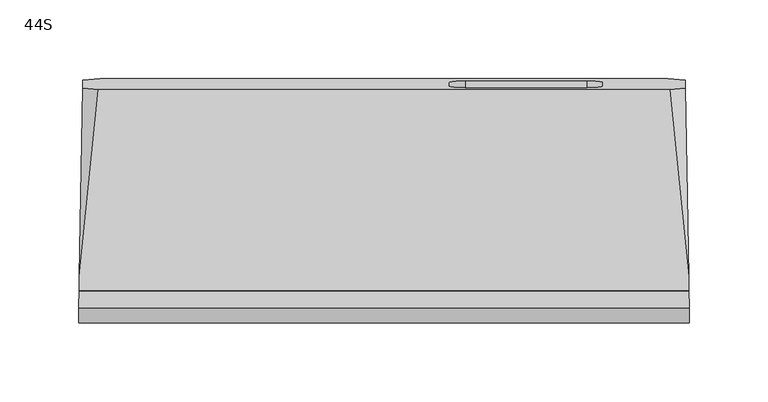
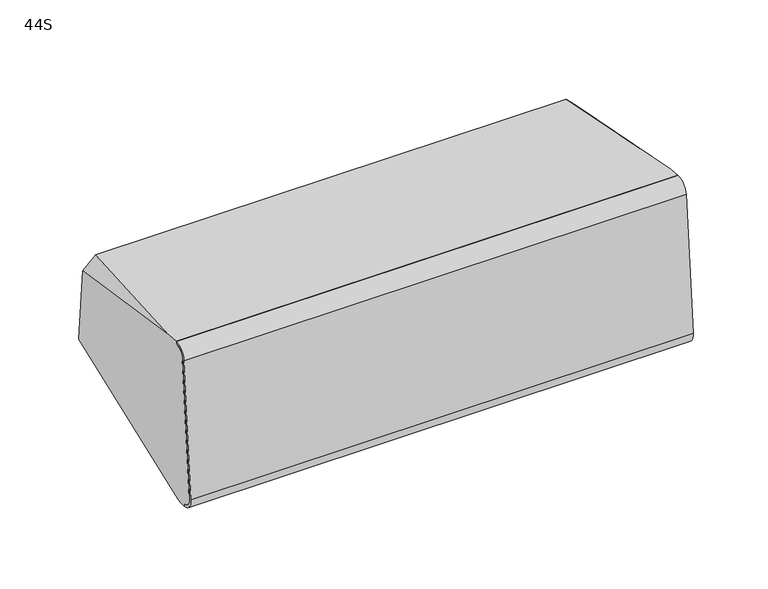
"""IFC4 building model written with IfcOpenShell, lengths in millimetres: proxy geometry, d&b xS-Series 44S Point Source : 44S."""

from ifc_helpers import new_model, si_unit, frame, origin, place, context, project, spatial, polyline, circle_curve, ellipse_curve, source, transform, mapped, element, save
from ifc_brep_helpers import plane_surface, cylinder_surface, revolved_surface, advanced_brep


def proxy_44s_8ae005f7(model_context):
    return source(origin(), model_context, "Body", "AdvancedBrep", [
        advanced_brep(
        [(193.2924342, -60.1708825, 69.5087397), (193.2924342, -60.3414006, 67.5597089), (193.4294708, -68.97039, 60.3191271), (193.4294708, -78.3900458, -47.3480309), (193.2918337, -71.1177341, -56.0148344), (193.2918337, -71.2920456, -58.0072238), (193.1898069, -65.3844214, -58.524074), (193.132384, -61.9536331, -57.6051002), (190.8800877, 73.551062, -10.8276942), (191.0574064, 68.3781553, 48.2989), (193.132384, -50.9035477, 68.697953), (-193.2924342, -60.3414006, 67.5597089), (-193.2924342, -60.1708825, 69.5087397), (-193.132384, -50.9035477, 68.697953), (-191.0574064, 68.3781553, 48.2989), (-190.8800877, 73.551062, -10.8276942), (-193.132384, -61.9536331, -57.6051002), (-193.1898069, -65.3844214, -58.524074), (-193.2918337, -71.2920456, -58.0072238), (-193.2918337, -71.1177341, -56.0148344), (-193.4294708, -78.3900458, -47.3480309), (-193.4294708, -68.97039, 60.3191271), (181.3061997, 67.4997599, 58.3390058), (-181.3061997, 67.4997599, 58.3390058), (-179.9289467, 74.4470346, -21.0687075), (179.9289467, 74.4470346, -21.0687075), (138.5, 72.1064219, 5.6846181), (138.5, 69.8403726, 31.5856802), (128.5, 68.9688151, 41.5476272), (51.5, 68.9688151, 41.5476272), (41.5, 69.8403726, 31.5856802), (41.5, 72.1064219, 5.6846181), (51.5, 72.9779793, -4.2773289), (128.5, 72.9779793, -4.2773289), (138.5, 67.1254484, 5.2488394), (128.5, 67.9970058, -4.7131076), (51.5, 67.9970058, -4.7131076), (41.5, 67.1254484, 5.2488394), (41.5, 64.8593991, 31.1499015), (51.5, 63.9878417, 41.1118485), (128.5, 63.9878417, 41.1118485), (138.5, 64.8593991, 31.1499015)],
        [
            (0, 1),
            (1, 2, ellipse_curve(frame((193.2924342, -61.0356044, 59.6249233), z_axis=(0.9998520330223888, 0.01713663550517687, -0.001499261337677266), x_axis=(0.017202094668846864, -0.9960472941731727, 0.08714284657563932)), 7.9662739, 7.9650952)),
            (2, 3),
            (3, 4, ellipse_curve(frame((193.2918337, -70.4204882, -48.0452768), z_axis=(0.9998520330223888, 0.01713663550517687, -0.001499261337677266), x_axis=(0.017202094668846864, -0.9960472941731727, 0.08714284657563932)), 8.0011839, 8.0)),
            (4, 5),
            (5, 6),
            (6, 7),
            (7, 8),
            (8, 9),
            (9, 10),
            (10, 0),
            (11, 12),
            (12, 13),
            (13, 14),
            (14, 15),
            (15, 16),
            (16, 17),
            (17, 18),
            (18, 19),
            (19, 20, ellipse_curve(frame((-193.2918337, -70.4204882, -48.0452768), z_axis=(-0.999852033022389, 0.01713663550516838, -0.0014992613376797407), x_axis=(0.017202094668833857, 0.9960472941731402, -0.08714284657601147)), 8.0011839, 8.0)),
            (20, 21),
            (21, 11, ellipse_curve(frame((-193.2924342, -61.0356044, 59.6249233), z_axis=(-0.999852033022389, 0.01713663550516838, -0.0014992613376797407), x_axis=(0.017202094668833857, 0.9960472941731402, -0.08714284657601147)), 7.9662739, 7.9650952)),
            (0, 12),
            (11, 1),
            (21, 2),
            (20, 3),
            (19, 4),
            (18, 5),
            (17, 6),
            (10, 22),
            (22, 23),
            (23, 13),
            (16, 24),
            (24, 25),
            (25, 7),
            (9, 22),
            (23, 14),
            (15, 24),
            (25, 8),
            (26, 27),
            (27, 28, circle_curve(frame((128.5, 69.8403726, 31.5856802), z_axis=(0.0, -0.9961946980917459, -0.08715574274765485), x_axis=(0.0, 0.08715574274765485, -0.9961946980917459)), 10.0)),
            (28, 29),
            (29, 30, circle_curve(frame((51.5, 69.8403726, 31.5856802), z_axis=(0.0, -0.9961946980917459, -0.08715574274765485), x_axis=(0.0, 0.08715574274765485, -0.9961946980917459)), 10.0)),
            (30, 31),
            (31, 32, circle_curve(frame((51.5, 72.1064219, 5.6846181), z_axis=(0.0, -0.9961946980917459, -0.08715574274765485), x_axis=(0.0, 0.08715574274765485, -0.9961946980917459)), 10.0)),
            (32, 33),
            (33, 26, circle_curve(frame((128.5, 72.1064219, 5.6846181), z_axis=(0.0, -0.9961946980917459, -0.08715574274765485), x_axis=(0.0, 0.08715574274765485, -0.9961946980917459)), 10.0)),
            (34, 35, circle_curve(frame((128.5, 67.1254484, 5.2488394), z_axis=(0.0, 0.9961946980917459, 0.08715574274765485), x_axis=(0.0, 0.08715574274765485, -0.9961946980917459)), 10.0)),
            (35, 36),
            (36, 37, circle_curve(frame((51.5, 67.1254484, 5.2488394), z_axis=(0.0, 0.9961946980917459, 0.08715574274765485), x_axis=(0.0, 0.08715574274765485, -0.9961946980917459)), 10.0)),
            (37, 38),
            (38, 39, circle_curve(frame((51.5, 64.8593991, 31.1499015), z_axis=(0.0, 0.9961946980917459, 0.08715574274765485), x_axis=(0.0, 0.08715574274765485, -0.9961946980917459)), 10.0)),
            (39, 40),
            (40, 41, circle_curve(frame((128.5, 64.8593991, 31.1499015), z_axis=(0.0, 0.9961946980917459, 0.08715574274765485), x_axis=(0.0, 0.08715574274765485, -0.9961946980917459)), 10.0)),
            (41, 34),
            (41, 27),
            (26, 34),
            (40, 28),
            (39, 29),
            (38, 30),
            (37, 31),
            (36, 32),
            (35, 33),
        ],
        [
            plane_surface(frame((193.8309972, -105.6486643, -91.1389233), z_axis=(0.9998520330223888, 0.01713663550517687, -0.001499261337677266), x_axis=(0.0, 0.08715574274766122, 0.9961946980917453))),
            plane_surface(frame((-190.7119283, 74.9537717, -106.9395891), z_axis=(-0.999852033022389, 0.01713663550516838, -0.0014992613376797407), x_axis=(0.0, 0.08715574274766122, 0.9961946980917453))),
            plane_surface(frame((207.1452552, -60.1708825, 69.5087397), z_axis=(0.0, -0.9961946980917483, 0.08715574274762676), x_axis=(-1.0, 0.0, 0.0))),
            cylinder_surface(frame((-207.1452552, -61.0356044, 59.6249233), z_axis=(1.0, 0.0, 0.0), x_axis=(0.0, 0.08715574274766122, 0.9961946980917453)), 7.9650952),
            plane_surface(frame((207.1452552, -68.97039, 60.3191271), z_axis=(0.0, -0.996194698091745, 0.08715574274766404), x_axis=(-1.0, 0.0, 0.0))),
            cylinder_surface(frame((-207.1452552, -70.4204882, -48.0452768), z_axis=(1.0, 0.0, 0.0), x_axis=(0.0, 0.08715574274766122, 0.9961946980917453)), 8.0),
            plane_surface(frame((207.1452552, -71.1177341, -56.0148344), z_axis=(0.0, -0.9961946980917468, 0.08715574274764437), x_axis=(-1.0, 0.0, 0.0))),
            plane_surface(frame((207.1452552, -71.2920456, -58.0072238), z_axis=(0.0, -0.08715574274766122, -0.9961946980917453), x_axis=(-1.0, 0.0, 0.0))),
            plane_surface(frame((207.1452552, -54.2284863, 68.9888474), z_axis=(0.0, 0.08715574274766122, 0.9961946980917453), x_axis=(-1.0, 0.0, 0.0))),
            plane_surface(frame((0.0, 74.4470346, -21.0687075), z_axis=(0.0, 0.2587393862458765, -0.965947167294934), x_axis=(1.0, 0.0, 0.0))),
            plane_surface(frame((186.6967137, 80.6989148, 50.3906107), z_axis=(0.7053631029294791, 0.13139331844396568, 0.6965620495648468), x_axis=(-0.7071067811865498, 0.061628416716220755, 0.7044160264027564))),
            plane_surface(frame((-186.6967137, 80.6989148, 50.3906107), z_axis=(-0.7053631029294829, 0.13139331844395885, 0.696562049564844), x_axis=(-0.7071067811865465, -0.06162841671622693, -0.7044160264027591))),
            plane_surface(frame((-186.6967137, 75.0368843, -14.326694), z_axis=(-0.6719558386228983, 0.2516194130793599, -0.696536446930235), x_axis=(0.7071067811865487, -0.061628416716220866, -0.7044160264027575))),
            plane_surface(frame((186.6967137, 75.0368843, -14.326694), z_axis=(0.6719558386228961, 0.25161941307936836, -0.6965364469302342), x_axis=(0.7071067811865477, 0.061628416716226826, 0.7044160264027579))),
            plane_surface(frame((250.0, 65.9723746, 75.7970998), z_axis=(0.0, 0.9961946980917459, 0.08715574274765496), x_axis=(-1.0, 0.0, 0.0))),
            plane_surface(frame((138.5, 62.5187864, 57.9032271), z_axis=(0.0, 0.9961946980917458, 0.08715574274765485), x_axis=(0.0, -0.08715574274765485, 0.9961946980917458))),
            plane_surface(frame((138.5, 67.1254484, 5.2488394), z_axis=(-1.0, 0.0, 0.0), x_axis=(0.0, 0.9961946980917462, 0.08715574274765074))),
            revolved_surface(polyline([(128.5, 65.73095652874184, 21.187954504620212), (128.5, 70.71193002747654, 21.62373321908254)]), (128.5, 69.8403726, 31.5856802), (0.0, -0.9961946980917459, -0.08715574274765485)),
            plane_surface(frame((128.5, 63.9878417, 41.1118485), z_axis=(0.0, 0.08715574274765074, -0.9961946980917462), x_axis=(0.0, 0.9961946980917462, 0.08715574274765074))),
            revolved_surface(polyline([(51.5, 65.73095652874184, 21.187954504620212), (51.5, 70.71193002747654, 21.62373321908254)]), (51.5, 69.8403726, 31.5856802), (0.0, -0.9961946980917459, -0.08715574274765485)),
            plane_surface(frame((41.5, 64.8593991, 31.1499015), z_axis=(1.0, 0.0, 0.0), x_axis=(0.0, 0.9961946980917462, 0.08715574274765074))),
            revolved_surface(polyline([(51.5, 67.99700579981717, -4.713107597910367), (51.5, 72.97797932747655, -4.277328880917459)]), (51.5, 72.1064219, 5.6846181), (0.0, -0.9961946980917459, -0.08715574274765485)),
            plane_surface(frame((51.5, 67.9970058, -4.7131076), z_axis=(0.0, -0.08715574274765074, 0.9961946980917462), x_axis=(0.0, 0.9961946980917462, 0.08715574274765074))),
            revolved_surface(polyline([(128.5, 67.99700579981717, -4.713107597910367), (128.5, 72.97797932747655, -4.277328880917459)]), (128.5, 72.1064219, 5.6846181), (0.0, -0.9961946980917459, -0.08715574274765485)),
        ],
        [
            (0, [[1, 2, 3, 4, 5, 6, 7, 8, 9, 10, 11]]),
            (1, [[12, 13, 14, 15, 16, 17, 18, 19, 20, 21, 22]]),
            (2, [[23, -12, 24, -1]]),
            (3, [[-24, -22, 25, -2]]),
            (4, [[-25, -21, 26, -3]]),
            (5, [[-26, -20, 27, -4]]),
            (6, [[-27, -19, 28, -5]]),
            (7, [[-28, -18, 29, -6]]),
            (8, [[-23, -11, 30, 31, 32, -13]]),
            (9, [[-29, -17, 33, 34, 35, -7]]),
            (10, [[-30, -10, 36]]),
            (11, [[-32, 37, -14]]),
            (12, [[-33, -16, 38]]),
            (13, [[-35, 39, -8]]),
            (14, [[-31, -36, -9, -39, -34, -38, -15, -37], [40, 41, 42, 43, 44, 45, 46, 47]]),
            (15, [[48, 49, 50, 51, 52, 53, 54, 55]]),
            (16, [[-55, 56, -40, 57]]),
            (17, [[-54, 58, -41, -56]]),
            (18, [[-53, 59, -42, -58]]),
            (19, [[-52, 60, -43, -59]]),
            (20, [[-51, 61, -44, -60]]),
            (21, [[-50, 62, -45, -61]]),
            (22, [[-49, 63, -46, -62]]),
            (23, [[-48, -57, -47, -63]]),
        ],
    ),
        advanced_brep(
        [(193.4294708, -78.3900458, -47.3480309), (193.4294708, -68.97039, 60.3191271), (193.2924342, -60.3414006, 67.5597089), (193.2924342, -60.1708825, 69.5087397), (193.4644806, -71.0043869, 60.4183501), (193.4644806, -80.4172072, -47.1706772), (193.2918337, -71.2950878, -58.0419958), (193.2918337, -71.1177341, -56.0148344), (-193.4294708, -68.97039, 60.3191271), (-193.4294708, -78.3900458, -47.3480309), (-193.2918337, -71.1177341, -56.0148344), (-193.2918337, -71.2950878, -58.0419958), (-193.4644806, -80.4172072, -47.1706772), (-193.4644806, -71.0043869, 60.4183501), (-193.2924342, -60.1708825, 69.5087397), (-193.2924342, -60.3414006, 67.5597089)],
        [
            (0, 1),
            (1, 2, ellipse_curve(frame((193.2924342, -61.0356044, 59.6249233), z_axis=(-0.9998520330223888, -0.01713663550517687, 0.001499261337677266), x_axis=(-0.01720209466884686, 0.9960472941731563, -0.0871428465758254)), 7.9662739, 7.9650952)),
            (2, 3),
            (3, 4, ellipse_curve(frame((193.2924342, -61.04244, 59.5467927), z_axis=(0.9998520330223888, 0.01713663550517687, -0.001499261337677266), x_axis=(0.01720209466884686, -0.9960472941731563, 0.0871428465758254)), 10.0014799, 10.0)),
            (4, 5),
            (5, 6, ellipse_curve(frame((193.2918337, -70.4204882, -48.0452768), z_axis=(0.9998520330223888, 0.01713663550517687, -0.001499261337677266), x_axis=(0.01720209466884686, -0.9960472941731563, 0.0871428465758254)), 10.0363899, 10.0349048)),
            (6, 7),
            (7, 0, ellipse_curve(frame((193.2918337, -70.4204882, -48.0452768), z_axis=(-0.9998520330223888, -0.01713663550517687, 0.001499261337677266), x_axis=(-0.01720209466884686, 0.9960472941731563, -0.0871428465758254)), 8.0011839, 8.0)),
            (8, 9),
            (9, 10, ellipse_curve(frame((-193.2918337, -70.4204882, -48.0452768), z_axis=(0.999852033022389, -0.01713663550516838, 0.0014992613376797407), x_axis=(-0.017202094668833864, -0.9960472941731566, 0.0871428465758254)), 8.0011839, 8.0)),
            (10, 11),
            (11, 12, ellipse_curve(frame((-193.2918337, -70.4204882, -48.0452768), z_axis=(-0.999852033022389, 0.01713663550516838, -0.0014992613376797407), x_axis=(0.017202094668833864, 0.9960472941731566, -0.0871428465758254)), 10.0363899, 10.0349048)),
            (12, 13),
            (13, 14, ellipse_curve(frame((-193.2924342, -61.04244, 59.5467927), z_axis=(-0.999852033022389, 0.01713663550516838, -0.0014992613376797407), x_axis=(0.017202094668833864, 0.9960472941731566, -0.0871428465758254)), 10.0014799, 10.0)),
            (14, 15),
            (15, 8, ellipse_curve(frame((-193.2924342, -61.0356044, 59.6249233), z_axis=(0.999852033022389, -0.01713663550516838, 0.0014992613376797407), x_axis=(-0.017202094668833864, -0.9960472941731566, 0.0871428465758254)), 7.9662739, 7.9650952)),
            (0, 9),
            (8, 1),
            (15, 2),
            (14, 3),
            (13, 4),
            (12, 5),
            (11, 6),
            (10, 7),
        ],
        [
            plane_surface(frame((193.8309972, -105.6486643, -91.1389233), z_axis=(0.9998520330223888, 0.01713663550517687, -0.001499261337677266), x_axis=(0.0, 0.08715574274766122, 0.9961946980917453))),
            plane_surface(frame((-190.7119283, 74.9537717, -106.9395891), z_axis=(-0.999852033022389, 0.01713663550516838, -0.0014992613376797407), x_axis=(0.0, 0.08715574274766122, 0.9961946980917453))),
            plane_surface(frame((202.5, -78.3900458, -47.3480309), z_axis=(0.0, 0.996194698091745, -0.08715574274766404), x_axis=(-1.0, 0.0, 0.0))),
            revolved_surface(polyline([(-193.4294708, -61.72980818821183, 51.69013769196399), (193.4294708, -61.72980818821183, 51.69013769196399)]), (-202.5, -61.0356044, 59.6249233), (-1.0, 0.0, 0.0)),
            plane_surface(frame((202.5, -60.3414006, 67.5597089), z_axis=(0.0, 0.9961946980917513, -0.0871557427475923), x_axis=(-1.0, 0.0, 0.0))),
            cylinder_surface(frame((-202.5, -61.04244, 59.5467927), z_axis=(1.0, 0.0, 0.0), x_axis=(0.0, -0.08715574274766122, -0.9961946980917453)), 10.0),
            plane_surface(frame((202.5, -71.0043869, 60.4183501), z_axis=(0.0, -0.996194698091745, 0.08715574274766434), x_axis=(-1.0, 0.0, 0.0))),
            cylinder_surface(frame((-202.5, -70.4204882, -48.0452768), z_axis=(1.0, 0.0, 0.0), x_axis=(0.0, -0.08715574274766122, -0.9961946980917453)), 10.0349048),
            plane_surface(frame((202.5, -71.2950878, -58.0419958), z_axis=(0.0, 0.9961946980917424, -0.08715574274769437), x_axis=(-1.0, 0.0, 0.0))),
            revolved_surface(polyline([(-193.42947082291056, -71.11773414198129, -56.014834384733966), (193.42947082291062, -71.11773414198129, -56.014834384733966)]), (-202.5, -70.4204882, -48.0452768), (-1.0, 0.0, 0.0)),
        ],
        [
            (0, [[1, 2, 3, 4, 5, 6, 7, 8]]),
            (1, [[9, 10, 11, 12, 13, 14, 15, 16]]),
            (2, [[17, -9, 18, -1]]),
            (3, [[-18, -16, 19, -2]]),
            (4, [[-19, -15, 20, -3]]),
            (5, [[-20, -14, 21, -4]]),
            (6, [[-21, -13, 22, -5]]),
            (7, [[-22, -12, 23, -6]]),
            (8, [[-23, -11, 24, -7]]),
            (9, [[-17, -8, -24, -10]]),
        ],
    ),
        advanced_brep(
        [(193.4294708, -78.3900458, -47.3480309), (193.4294708, -68.97039, 60.3191271), (193.2924342, -60.3414006, 67.5597089), (193.2924342, -60.1708825, 69.5087397), (193.4644806, -71.0043869, 60.4183501), (193.4644806, -80.4172072, -47.1706772), (193.2918337, -71.2950878, -58.0419958), (193.2918337, -71.1177341, -56.0148344), (-193.4294708, -68.97039, 60.3191271), (-193.4294708, -78.3900458, -47.3480309), (-193.2918337, -71.1177341, -56.0148344), (-193.2918337, -71.2950878, -58.0419958), (-193.4644806, -80.4172072, -47.1706772), (-193.4644806, -71.0043869, 60.4183501), (-193.2924342, -60.1708825, 69.5087397), (-193.2924342, -60.3414006, 67.5597089)],
        [
            (0, 1),
            (1, 2, ellipse_curve(frame((193.2924342, -61.0356044, 59.6249233), z_axis=(-0.9998520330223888, -0.01713663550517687, 0.001499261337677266), x_axis=(-0.01720209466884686, 0.9960472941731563, -0.0871428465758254)), 7.9662739, 7.9650952)),
            (2, 3),
            (3, 4, ellipse_curve(frame((193.2924342, -61.04244, 59.5467927), z_axis=(0.9998520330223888, 0.01713663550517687, -0.001499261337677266), x_axis=(0.01720209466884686, -0.9960472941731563, 0.0871428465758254)), 10.0014799, 10.0)),
            (4, 5),
            (5, 6, ellipse_curve(frame((193.2918337, -70.4204882, -48.0452768), z_axis=(0.9998520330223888, 0.01713663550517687, -0.001499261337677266), x_axis=(0.01720209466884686, -0.9960472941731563, 0.0871428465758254)), 10.0363899, 10.0349048)),
            (6, 7),
            (7, 0, ellipse_curve(frame((193.2918337, -70.4204882, -48.0452768), z_axis=(-0.9998520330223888, -0.01713663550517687, 0.001499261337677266), x_axis=(-0.01720209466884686, 0.9960472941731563, -0.0871428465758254)), 8.0011839, 8.0)),
            (8, 9),
            (9, 10, ellipse_curve(frame((-193.2918337, -70.4204882, -48.0452768), z_axis=(0.999852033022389, -0.01713663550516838, 0.0014992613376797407), x_axis=(-0.017202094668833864, -0.9960472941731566, 0.0871428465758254)), 8.0011839, 8.0)),
            (10, 11),
            (11, 12, ellipse_curve(frame((-193.2918337, -70.4204882, -48.0452768), z_axis=(-0.999852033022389, 0.01713663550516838, -0.0014992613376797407), x_axis=(0.017202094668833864, 0.9960472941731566, -0.0871428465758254)), 10.0363899, 10.0349048)),
            (12, 13),
            (13, 14, ellipse_curve(frame((-193.2924342, -61.04244, 59.5467927), z_axis=(-0.999852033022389, 0.01713663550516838, -0.0014992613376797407), x_axis=(0.017202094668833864, 0.9960472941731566, -0.0871428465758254)), 10.0014799, 10.0)),
            (14, 15),
            (15, 8, ellipse_curve(frame((-193.2924342, -61.0356044, 59.6249233), z_axis=(0.999852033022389, -0.01713663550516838, 0.0014992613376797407), x_axis=(-0.017202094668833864, -0.9960472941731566, 0.0871428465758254)), 7.9662739, 7.9650952)),
            (0, 9),
            (8, 1),
            (15, 2),
            (14, 3),
            (13, 4),
            (12, 5),
            (11, 6),
            (10, 7),
        ],
        [
            plane_surface(frame((193.8309972, -105.6486643, -91.1389233), z_axis=(0.9998520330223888, 0.01713663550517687, -0.001499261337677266), x_axis=(0.0, 0.08715574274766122, 0.9961946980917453))),
            plane_surface(frame((-190.7119283, 74.9537717, -106.9395891), z_axis=(-0.999852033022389, 0.01713663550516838, -0.0014992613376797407), x_axis=(0.0, 0.08715574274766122, 0.9961946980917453))),
            plane_surface(frame((202.5, -78.3900458, -47.3480309), z_axis=(0.0, 0.996194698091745, -0.08715574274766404), x_axis=(-1.0, 0.0, 0.0))),
            revolved_surface(polyline([(-193.4294708, -61.72980818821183, 51.69013769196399), (193.4294708, -61.72980818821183, 51.69013769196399)]), (-202.5, -61.0356044, 59.6249233), (-1.0, 0.0, 0.0)),
            plane_surface(frame((202.5, -60.3414006, 67.5597089), z_axis=(0.0, 0.9961946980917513, -0.0871557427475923), x_axis=(-1.0, 0.0, 0.0))),
            cylinder_surface(frame((-202.5, -61.04244, 59.5467927), z_axis=(1.0, 0.0, 0.0), x_axis=(0.0, -0.08715574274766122, -0.9961946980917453)), 10.0),
            plane_surface(frame((202.5, -71.0043869, 60.4183501), z_axis=(0.0, -0.996194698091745, 0.08715574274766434), x_axis=(-1.0, 0.0, 0.0))),
            cylinder_surface(frame((-202.5, -70.4204882, -48.0452768), z_axis=(1.0, 0.0, 0.0), x_axis=(0.0, -0.08715574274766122, -0.9961946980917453)), 10.0349048),
            plane_surface(frame((202.5, -71.2950878, -58.0419958), z_axis=(0.0, 0.9961946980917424, -0.08715574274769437), x_axis=(-1.0, 0.0, 0.0))),
            revolved_surface(polyline([(-193.42947082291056, -71.11773414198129, -56.014834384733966), (193.42947082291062, -71.11773414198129, -56.014834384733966)]), (-202.5, -70.4204882, -48.0452768), (-1.0, 0.0, 0.0)),
        ],
        [
            (0, [[1, 2, 3, 4, 5, 6, 7, 8]]),
            (1, [[9, 10, 11, 12, 13, 14, 15, 16]]),
            (2, [[17, -9, 18, -1]]),
            (3, [[-18, -16, 19, -2]]),
            (4, [[-19, -15, 20, -3]]),
            (5, [[-20, -14, 21, -4]]),
            (6, [[-21, -13, 22, -5]]),
            (7, [[-22, -12, 23, -6]]),
            (8, [[-23, -11, 24, -7]]),
            (9, [[-17, -8, -24, -10]]),
        ],
    ),
    ])


if __name__ == "__main__":
    model = new_model("IFC4")
    model_context = context("Model", 3, world=origin())
    ifc_project = project(units=[si_unit("LENGTHUNIT", "METRE", prefix="MILLI")], contexts=[model_context])
    site = spatial("IfcSite", under=ifc_project)
    building = spatial("IfcBuilding", under=site)
    placement = place(None, origin())
    proxy_44s_shape = proxy_44s_8ae005f7(model_context)
    element("IfcBuildingElementProxy", 1, Name="d&b xS-Series 44S Point Source : 44S", ObjectType="d&b xS-Series 44S Point Source : 44S", at=placement, inside=building, context=model_context, shape_type="MappedRepresentation", body=[
        mapped(proxy_44s_shape, transform((0.0, 0.0, 0.0), x_axis=(1.0, 0.0, 0.0), y_axis=(0.0, 1.0, 0.0), z_axis=(0.0, 0.0, 1.0))),
    ])
    save(model, "model.ifc")
